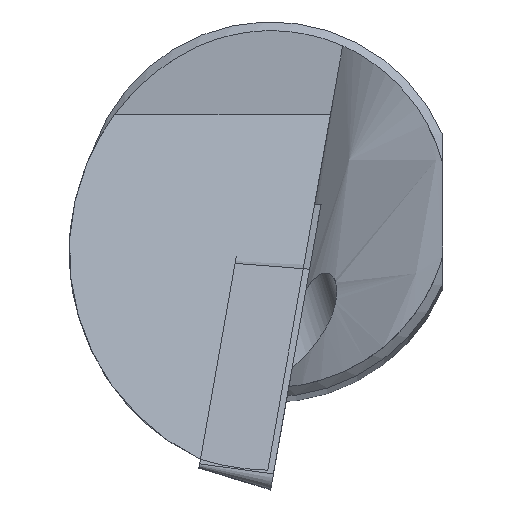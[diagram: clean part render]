
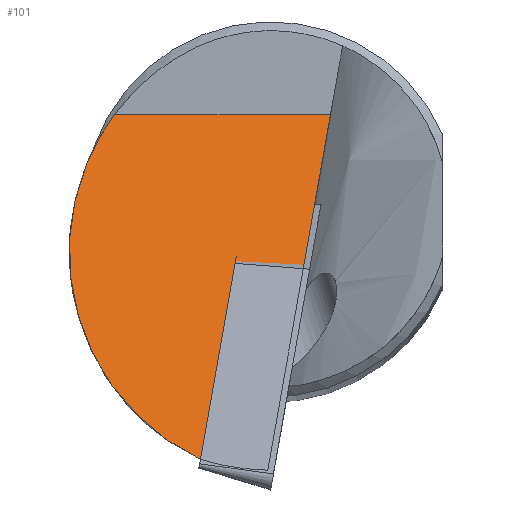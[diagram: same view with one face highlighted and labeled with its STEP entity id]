
A CAD part, top view. The second image highlights one B-rep face of the part: STEP entity #101.
In plain terms, the highlighted planar face has unit normal (0, 0.305, 0.952).
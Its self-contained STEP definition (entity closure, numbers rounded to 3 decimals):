
#24=ELLIPSE('',#428,7.995,7.575);
#25=ELLIPSE('',#431,7.729,7.361);
#101=ADVANCED_FACE('',(#135),#119,.F.);
#119=PLANE('',#432);
#135=FACE_OUTER_BOUND('',#156,.T.);
#156=EDGE_LOOP('',(#220,#221,#222,#223));
#220=ORIENTED_EDGE('',*,*,#338,.T.);
#221=ORIENTED_EDGE('',*,*,#341,.F.);
#222=ORIENTED_EDGE('',*,*,#342,.T.);
#223=ORIENTED_EDGE('',*,*,#343,.F.);
#297=VERTEX_POINT('',#717);
#298=VERTEX_POINT('',#719);
#300=VERTEX_POINT('',#732);
#301=VERTEX_POINT('',#734);
#338=EDGE_CURVE('',#298,#297,#24,.T.);
#341=EDGE_CURVE('',#300,#297,#378,.T.);
#342=EDGE_CURVE('',#300,#301,#379,.T.);
#343=EDGE_CURVE('',#298,#301,#25,.T.);
#378=LINE('',#731,#403);
#379=LINE('',#733,#404);
#403=VECTOR('',#506,1.);
#404=VECTOR('',#507,1.);
#428=AXIS2_PLACEMENT_3D('',#718,#500,#501);
#431=AXIS2_PLACEMENT_3D('',#735,#508,#509);
#432=AXIS2_PLACEMENT_3D('',#736,#510,#511);
#500=DIRECTION('',(0.,0.305,0.952));
#501=DIRECTION('',(0.,-0.952,0.305));
#506=DIRECTION('',(-0.166,-0.939,0.301));
#507=DIRECTION('',(-1.,0.,0.));
#508=DIRECTION('',(0.,-0.305,-0.952));
#509=DIRECTION('',(0.,-0.952,0.305));
#510=DIRECTION('',(0.,-0.305,-0.952));
#511=DIRECTION('',(0.,0.952,-0.305));
#717=CARTESIAN_POINT('',(-0.097,-8.382,-0.056));
#718=CARTESIAN_POINT('',(0.,-0.769,-2.493));
#719=CARTESIAN_POINT('',(-2.25,-8.039,-0.166));
#731=CARTESIAN_POINT('',(0.385,-5.646,-0.932));
#732=CARTESIAN_POINT('',(1.91,3.,-3.7));
#733=CARTESIAN_POINT('',(-8.4,3.,-3.7));
#734=CARTESIAN_POINT('',(-4.999,3.,-3.7));
#735=CARTESIAN_POINT('',(0.909,-1.39,-2.294));
#736=CARTESIAN_POINT('',(-8.4,12.159,-6.632));
